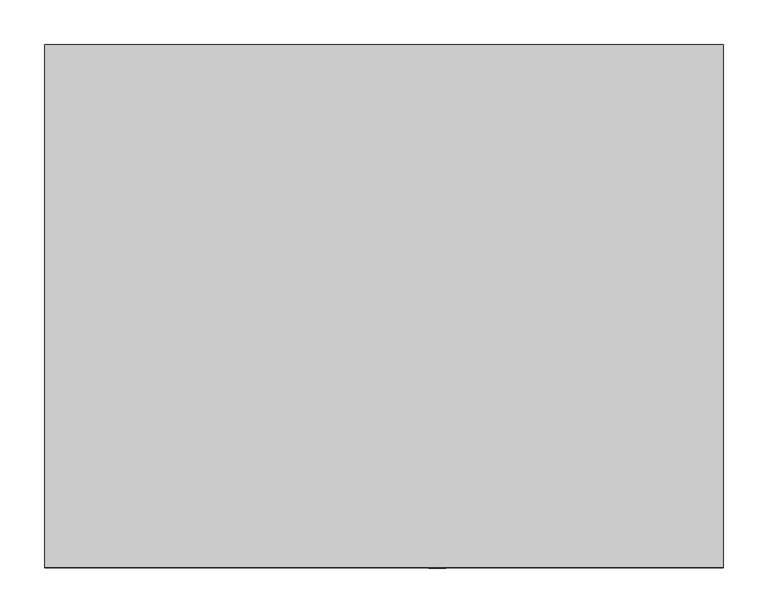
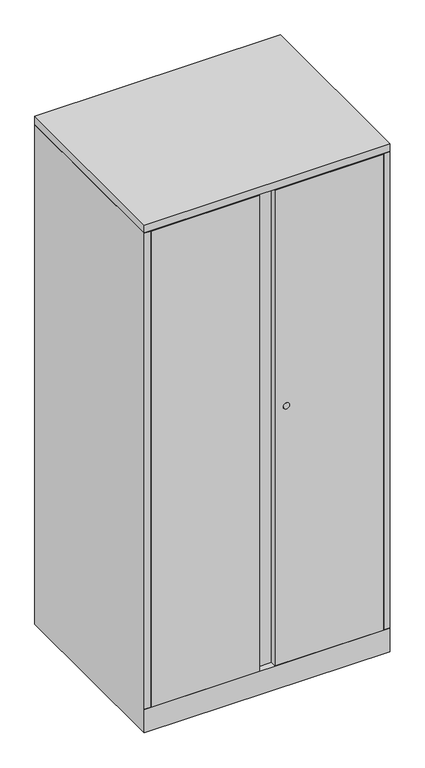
"""IFC4 building model written with IfcOpenShell, lengths in millimetres: furniture geometry, Steelcase - Universal Storage - Cabinet - Storage - 66H-84H - Flush Steel : 65 1/2H x 23 1/8D x 30W."""

from ifc_helpers import new_model, si_unit, point, frame, frame_2d, origin, place, context, project, spatial, polyline, circle_curve, trimmed, segment, composite_curve, outline, extrude, faceted_brep, source, transform, mapped, element, save


def furniture_780efc7c(model_context):
    return source(origin(), model_context, "Body", "SolidModel", [
        extrude(outline(polyline([(762.0, 0.0), (762.0, -587.502), (0.0, -587.502), (0.0, 0.0), (762.0, 0.0)])), frame((0.0, 0.0, 1638.3), z_axis=(0.0, 0.0, 1.0), x_axis=(1.0, 0.0, 0.0)), (0.0, 0.0, 1.0), 25.4000484),
        extrude(outline(composite_curve([segment(trimmed(circle_curve(frame_2d((917.575, 440.8109835)), 9.7167829), [point((917.575, 450.5277664))], [point((917.575, 431.0942006))], False, "CARTESIAN"), True, "CONTINUOUS"), segment(trimmed(circle_curve(frame_2d((917.575, 440.8109835)), 9.7167829), [point((917.575, 431.0942006))], [point((917.575, 450.5277664))], False, "CARTESIAN"), True, "CONTINUOUS")], self_intersect=False)), frame((0.0, -588.1715275, 0.0), z_axis=(0.0, 1.0, 0.0), x_axis=(0.0, 0.0, 1.0)), (0.0, 0.0, 1.0), 0.6695275),
        extrude(outline(polyline([(20.8280006, -561.975866), (741.172, -561.975866), (741.172, -587.502), (405.13, -587.502), (405.13, -568.3258781), (356.87, -568.3258781), (356.87, -587.502), (20.8280006, -587.502), (20.8280006, -561.975866)])), frame((0.0, 0.0, 77.724), z_axis=(0.0, 0.0, 1.0), x_axis=(1.0, 0.0, 0.0)), (0.0, 0.0, 1.0), 1559.052),
        faceted_brep([(762.0, 0.0, 0.0), (762.0, -587.502, 0.0), (0.0, -587.502, 0.0), (0.0, 0.0, 0.0), (0.0, 0.0, 1636.776), (762.0, 0.0, 1636.776), (0.0, -587.502, 76.2), (0.0, -587.502, 77.724), (0.0, -587.502, 1636.776), (762.0, -587.502, 76.2), (762.0, -587.502, 1636.776), (762.0, -587.502, 77.724), (736.6000242, -25.4000008, 1636.776), (736.6000242, -560.4518674, 1636.776), (741.172, -560.4518674, 1636.776), (741.172, -561.9758781, 1636.776), (742.696, -561.9758781, 1636.776), (742.696, -587.502, 1636.776), (19.304, -587.502, 1636.776), (19.304, -561.975866, 1636.776), (20.8280006, -561.975866, 1636.776), (20.8280006, -560.4518674, 1636.776), (25.4000008, -560.4518674, 1636.776), (25.4000008, -25.4000008, 1636.776), (19.304, -587.502, 77.724), (19.304, -568.198, 77.724), (742.696, -587.502, 77.724), (742.696, -568.0718418, 77.724), (736.6000242, -25.4000008, 77.724), (736.6000242, -560.4518674, 77.724), (741.172, -560.4518674, 77.724), (741.172, -561.9758781, 77.724), (742.696, -561.9758781, 77.724), (19.304, -561.975866, 77.724), (20.8280006, -561.975866, 77.724), (20.8280006, -560.4518674, 77.724), (25.4000008, -560.4518674, 77.724), (25.4000008, -25.4000008, 77.724), (25.526134, -561.975866, 77.724), (736.6000242, -561.975866, 77.724)], [[[0, 1, 2, 3]], [[0, 3, 4, 5]], [[4, 3, 2, 6, 7, 8]], [[2, 1, 9, 6]], [[1, 0, 5, 10, 11, 9]], [[12, 13, 14, 15, 16, 17, 10, 5, 4, 8, 18, 19, 20, 21, 22, 23]], [[24, 7, 25]], [[11, 26, 27]], [[13, 12, 28, 29]], [[14, 13, 29, 30]], [[15, 14, 30, 31]], [[16, 15, 31, 32]], [[17, 16, 32, 27, 26]], [[10, 17, 26, 11]], [[18, 8, 7, 24]], [[19, 18, 24, 25, 33]], [[20, 19, 33, 34]], [[21, 20, 34, 35]], [[22, 21, 35, 36]], [[23, 22, 36, 37]], [[12, 23, 37, 28]], [[38, 39, 27, 32, 31, 30, 29, 28, 37, 36, 35, 34, 33, 25]], [[7, 6, 38, 25]], [[39, 38, 6, 9]], [[39, 9, 11, 27]]]),
    ])


if __name__ == "__main__":
    model = new_model("IFC4")
    model_context = context("Model", 3, world=origin())
    ifc_project = project(units=[si_unit("LENGTHUNIT", "METRE", prefix="MILLI")], contexts=[model_context])
    site = spatial("IfcSite", under=ifc_project)
    building = spatial("IfcBuilding", under=site)
    placement = place(None, origin())
    furniture_shape = furniture_780efc7c(model_context)
    element("IfcFurniture", 1, ObjectType="Steelcase - Universal Storage - Cabinet - Storage - 66H-84H - Flush Steel : 65 1/2H x 23 1/8D x 30W", at=placement, inside=building, context=model_context, shape_type="MappedRepresentation", body=[
        mapped(furniture_shape, transform((0.0, 0.0, 0.0), x_axis=(1.0, 0.0, 0.0), y_axis=(0.0, 1.0, 0.0), z_axis=(0.0, 0.0, 1.0))),
    ])
    save(model, "model.ifc")
